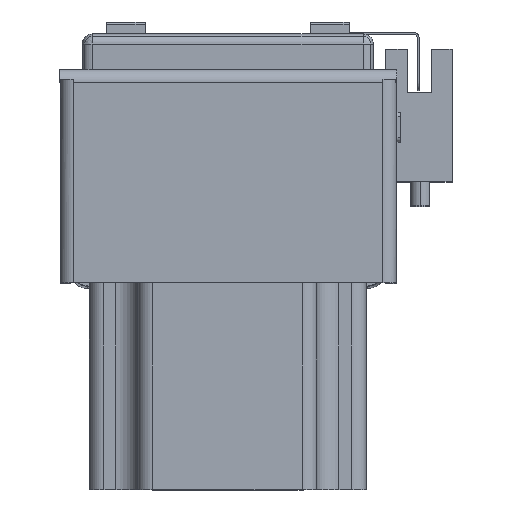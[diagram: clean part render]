
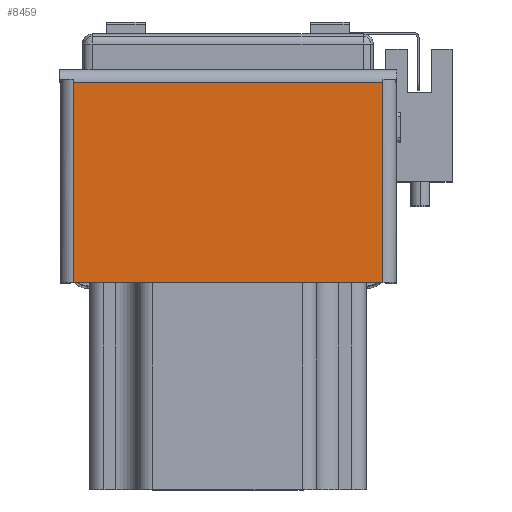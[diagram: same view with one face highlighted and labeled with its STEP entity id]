
A CAD part, top view. The second image highlights one B-rep face of the part: STEP entity #8459.
In plain terms, the highlighted planar face has unit normal (0, 0, 1) as drawn and (1, 0, 0) by its records, which use the part's own axes.
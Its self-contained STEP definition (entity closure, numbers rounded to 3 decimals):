
#1959 = VERTEX_POINT ( 'NONE', #33755 ) ;
#1965 = VERTEX_POINT ( 'NONE', #33775 ) ;
#1968 = VERTEX_POINT ( 'NONE', #33763 ) ;
#1975 = VERTEX_POINT ( 'NONE', #33747 ) ;
#5276 = DIRECTION ( 'NONE',  ( -1., 0., 0. ) ) ;
#5292 = CARTESIAN_POINT ( 'NONE',  ( 2., 42., -32.6 ) ) ;
#5294 = DIRECTION ( 'NONE',  ( 0., 0., 1. ) ) ;
#5303 = PLANE ( 'NONE',  #30572 ) ;
#7130 = DIRECTION ( 'NONE',  ( 0., 0., -1. ) ) ;
#7146 = CARTESIAN_POINT ( 'NONE',  ( 2., 0., -32.6 ) ) ;
#7208 = CARTESIAN_POINT ( 'NONE',  ( 2., 41.263, -31.863 ) ) ;
#7211 = DIRECTION ( 'NONE',  ( 0., 0., 1. ) ) ;
#7231 = CARTESIAN_POINT ( 'NONE',  ( 2., 42., 31.863 ) ) ;
#7232 = DIRECTION ( 'NONE',  ( 0., -1., 0. ) ) ;
#7250 = CARTESIAN_POINT ( 'NONE',  ( 2., 42., -31.863 ) ) ;
#7253 = DIRECTION ( 'NONE',  ( 0., -1., 0. ) ) ;
#8459 = ADVANCED_FACE ( 'NONE', ( #15433 ), #5303, .F. ) ;
#10952 = VECTOR ( 'NONE', #7130, 1000. ) ;
#10953 = VECTOR ( 'NONE', #7211, 1000. ) ;
#10968 = LINE ( 'NONE', #7146, #10952 ) ;
#10990 = LINE ( 'NONE', #7208, #10953 ) ;
#10994 = LINE ( 'NONE', #7231, #11027 ) ;
#10999 = LINE ( 'NONE', #7250, #11000 ) ;
#11000 = VECTOR ( 'NONE', #7253, 1000. ) ;
#11027 = VECTOR ( 'NONE', #7232, 1000. ) ;
#15433 = FACE_OUTER_BOUND ( 'NONE', #21686, .T. ) ;
#15877 = ORIENTED_EDGE ( 'NONE', *, *, #23853, .T. ) ;
#21686 = EDGE_LOOP ( 'NONE', ( #15877, #24494, #24500, #24478 ) ) ;
#23839 = EDGE_CURVE ( 'NONE', #1965, #1959, #10968, .T. ) ;
#23853 = EDGE_CURVE ( 'NONE', #1968, #1975, #10990, .T. ) ;
#23873 = EDGE_CURVE ( 'NONE', #1968, #1959, #10999, .T. ) ;
#23877 = EDGE_CURVE ( 'NONE', #1975, #1965, #10994, .T. ) ;
#24478 = ORIENTED_EDGE ( 'NONE', *, *, #23873, .F. ) ;
#24494 = ORIENTED_EDGE ( 'NONE', *, *, #23877, .T. ) ;
#24500 = ORIENTED_EDGE ( 'NONE', *, *, #23839, .T. ) ;
#30572 = AXIS2_PLACEMENT_3D ( 'NONE', #5292, #5276, #5294 ) ;
#33747 = CARTESIAN_POINT ( 'NONE',  ( 2., 41.263, 31.863 ) ) ;
#33755 = CARTESIAN_POINT ( 'NONE',  ( 2., 0., -31.863 ) ) ;
#33763 = CARTESIAN_POINT ( 'NONE',  ( 2., 41.263, -31.863 ) ) ;
#33775 = CARTESIAN_POINT ( 'NONE',  ( 2., 0., 31.863 ) ) ;
